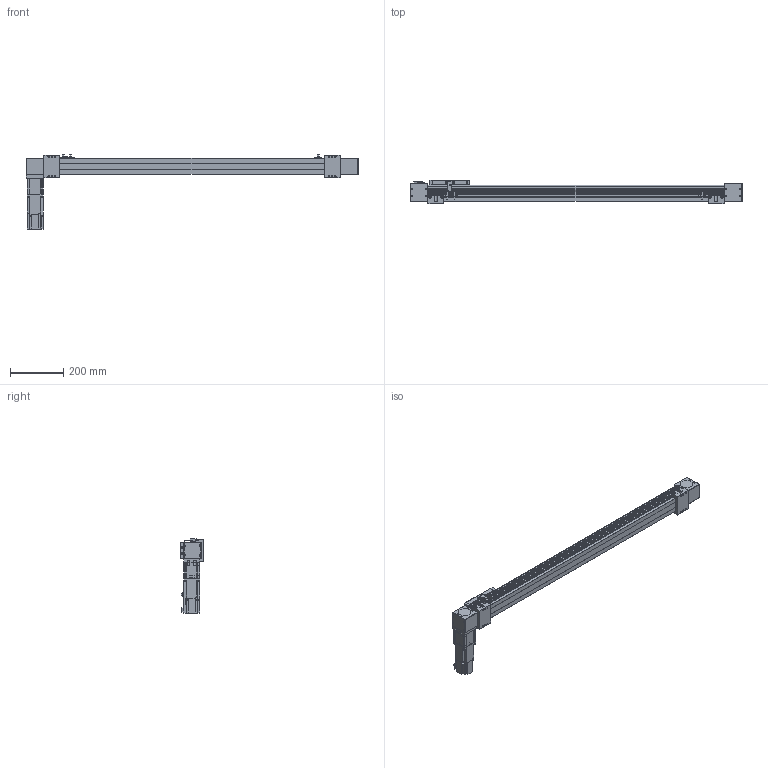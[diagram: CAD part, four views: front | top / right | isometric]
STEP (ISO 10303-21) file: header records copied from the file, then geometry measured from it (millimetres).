
FILE_DESCRIPTION(/* description */ ('STEP AP203'),/* implementation_level */ '2;1');
FILE_NAME(/* name */ 'SK60-P13-S950-BR-T40-C1-N(0)',/* time_stamp */ '2023-04-06T03:59:35+02:00',/* author */ ('License CC BY-ND 4.0'),/* organization */ ('CADENAS'),/* preprocessor_version */ 'ST-DEVELOPER v19.3',/* originating_system */ 'PARTsolutions',/* authorisation */ ' ');
FILE_SCHEMA (('CONFIG_CONTROL_DESIGN'));
Length unit declared in the file: millimetre
Products named in the file (11): SK60-P13-S950-BR-T40-C1-N(0); PSC140-sensor; SK60-S450_seat; SK60-S450-BL-C1_slider; SK60_body3; SK60_body6; SK60-BL_body2; T40-p1; SK60_body5; SK60_body4; SK60-S950-BR-C1_body
Assembly tree (17 placements, depth 2):
  SK60-P13-S950-BR-T40-C1-N(0)
    PSC140-sensor  x3
    SK60-S450_seat  x2
    SK60-S450-BL-C1_slider
    SK60_body3  x3
    SK60_body6  x2
    SK60-BL_body2  x2
    T40-p1
    SK60_body5
    SK60_body4
    SK60-S950-BR-C1_body
Bounding box: 1250 x 90 x 279.1 mm (x, y, z)
Volume: 4821345.8 mm3; surface area: 649306.6 mm2
Topology: 17 solids, 21 shells, 834 faces, 2109 edges, 1394 vertices
Faces by surface type: plane 544, cylinder 266, cone 22, torus 2
Full cylindrical faces by diameter (mm): 2.8 x3, 3.3 x4, 4.2 x8, 4.5 x26, 4.6 x3, 4.917 x16, 5 x2, 5.478 x4, 5.5 x19, 6.5 x4, 8 x4, 8.5 x4, 9.988 x4, 10 x8, 13.556 x1, 14 x1, 14.586 x1, 19.692 x1, 38.432 x2, 43 x1, 44 x3, 47 x2, 50 x2
Entity records: 19371 total; most frequent: DIRECTION 3292, CARTESIAN_POINT 3289, ORIENTED_EDGE 3050, EDGE_CURVE 1525, AXIS2_PLACEMENT_3D 1100, LINE 1092, VECTOR 1092, VERTEX_POINT 1077
